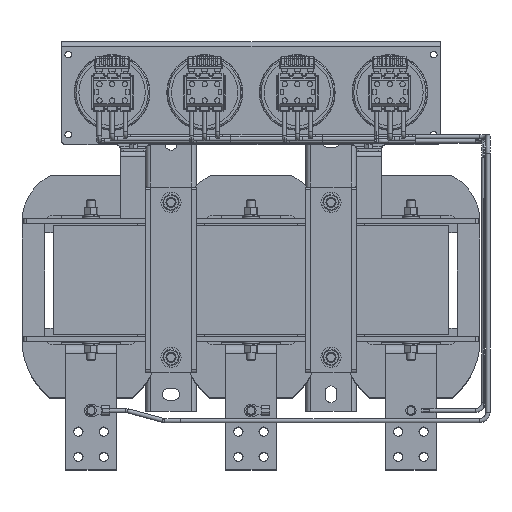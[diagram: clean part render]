
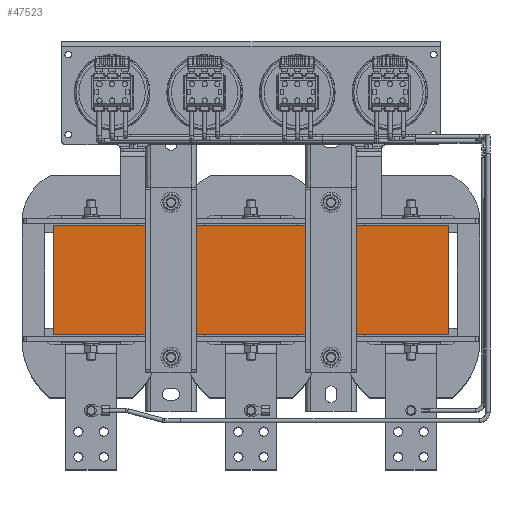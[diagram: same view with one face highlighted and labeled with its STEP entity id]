
A CAD part, top view. The second image highlights one B-rep face of the part: STEP entity #47523.
In plain terms, the highlighted planar face has unit normal (0, 0, 1).
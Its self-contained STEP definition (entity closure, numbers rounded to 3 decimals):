
#4278 = LINE ( 'NONE', #39658, #88466 ) ;
#8055 = VERTEX_POINT ( 'NONE', #72556 ) ;
#8436 = CARTESIAN_POINT ( 'NONE',  ( 235., 137.685, 530. ) ) ;
#14016 = EDGE_LOOP ( 'NONE', ( #87207, #39909, #91509, #88967 ) ) ;
#27166 = EDGE_CURVE ( 'NONE', #30445, #8055, #74165, .T. ) ;
#30445 = VERTEX_POINT ( 'NONE', #8436 ) ;
#38739 = PLANE ( 'NONE',  #65607 ) ;
#38818 = CARTESIAN_POINT ( 'NONE',  ( 235., 137.685, 530. ) ) ;
#39658 = CARTESIAN_POINT ( 'NONE',  ( 235., 2.685, 530. ) ) ;
#39909 = ORIENTED_EDGE ( 'NONE', *, *, #46667, .T. ) ;
#41393 = LINE ( 'NONE', #63825, #55446 ) ;
#42783 = EDGE_CURVE ( 'NONE', #8055, #70049, #62186, .T. ) ;
#45516 = DIRECTION ( 'NONE',  ( -1., 0., 0. ) ) ;
#46667 = EDGE_CURVE ( 'NONE', #85383, #30445, #4278, .T. ) ;
#47523 = ADVANCED_FACE ( 'NONE', ( #89851 ), #38739, .T. ) ;
#55014 = DIRECTION ( 'NONE',  ( 0., -1., 0. ) ) ;
#55446 = VECTOR ( 'NONE', #55728, 1000. ) ;
#55728 = DIRECTION ( 'NONE',  ( 1., 0., 0. ) ) ;
#57330 = VECTOR ( 'NONE', #45516, 1000. ) ;
#62186 = LINE ( 'NONE', #91334, #68326 ) ;
#63825 = CARTESIAN_POINT ( 'NONE',  ( 0., 7.685, 530. ) ) ;
#65295 = CARTESIAN_POINT ( 'NONE',  ( 235., 7.685, 530. ) ) ;
#65607 = AXIS2_PLACEMENT_3D ( 'NONE', #67867, #75495, #75023 ) ;
#67867 = CARTESIAN_POINT ( 'NONE',  ( 235., 2.685, 530. ) ) ;
#68326 = VECTOR ( 'NONE', #55014, 1000. ) ;
#70049 = VERTEX_POINT ( 'NONE', #88097 ) ;
#72556 = CARTESIAN_POINT ( 'NONE',  ( -235., 137.685, 530. ) ) ;
#74165 = LINE ( 'NONE', #38818, #57330 ) ;
#75023 = DIRECTION ( 'NONE',  ( 1., 0., 0. ) ) ;
#75495 = DIRECTION ( 'NONE',  ( 0., 0., 1. ) ) ;
#76902 = DIRECTION ( 'NONE',  ( 0., 1., 0. ) ) ;
#83943 = EDGE_CURVE ( 'NONE', #70049, #85383, #41393, .T. ) ;
#85383 = VERTEX_POINT ( 'NONE', #65295 ) ;
#87207 = ORIENTED_EDGE ( 'NONE', *, *, #83943, .T. ) ;
#88097 = CARTESIAN_POINT ( 'NONE',  ( -235., 7.685, 530. ) ) ;
#88466 = VECTOR ( 'NONE', #76902, 1000. ) ;
#88967 = ORIENTED_EDGE ( 'NONE', *, *, #42783, .T. ) ;
#89851 = FACE_OUTER_BOUND ( 'NONE', #14016, .T. ) ;
#91334 = CARTESIAN_POINT ( 'NONE',  ( -235., 2.685, 530. ) ) ;
#91509 = ORIENTED_EDGE ( 'NONE', *, *, #27166, .T. ) ;
